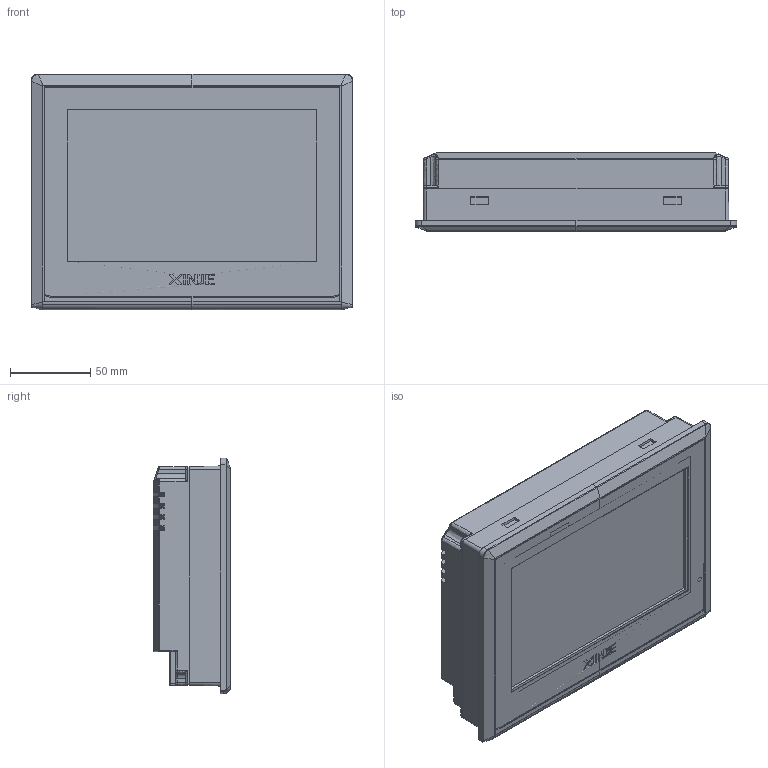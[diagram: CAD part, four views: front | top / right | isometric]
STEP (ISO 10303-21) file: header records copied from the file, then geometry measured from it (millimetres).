
FILE_DESCRIPTION(/* description */ (''),/* implementation_level */ '2;1');
FILE_NAME(/* name */ 'TG765-ET',/* time_stamp */ '2023-04-10T14:52:03+08:00',/* author */ (''),/* organization */ (''),/* preprocessor_version */ 'ST-DEVELOPER v16.5',/* originating_system */ '',/* authorisation */ '');
FILE_SCHEMA (('AUTOMOTIVE_DESIGN'));
Length unit declared in the file: millimetre
Products named in the file (1): Document
Bounding box: 200.4 x 48.57 x 146.9 mm (x, y, z)
Volume: 1126479.3 mm3; surface area: 172181.8 mm2
Topology: 3 solids, 3 shells, 789 faces, 2193 edges, 1441 vertices
Faces by surface type: plane 582, bspline 207
Entity records: 27949 total; most frequent: CARTESIAN_POINT 13785, ORIENTED_EDGE 4374, EDGE_CURVE 2187, B_SPLINE_CURVE_WITH_KNOTS 1887, VERTEX_POINT 1437, EDGE_LOOP 836, ADVANCED_FACE 789, FACE_OUTER_BOUND 789
